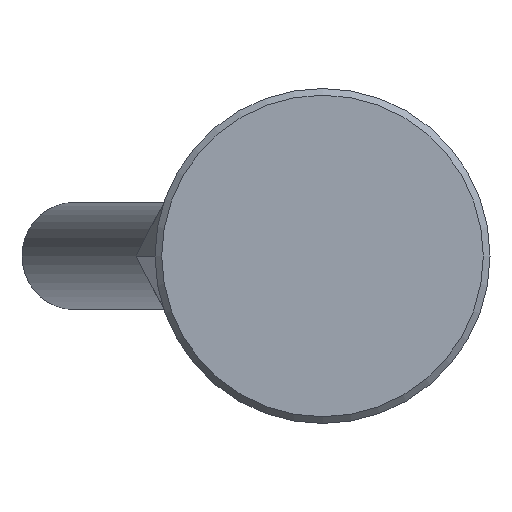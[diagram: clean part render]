
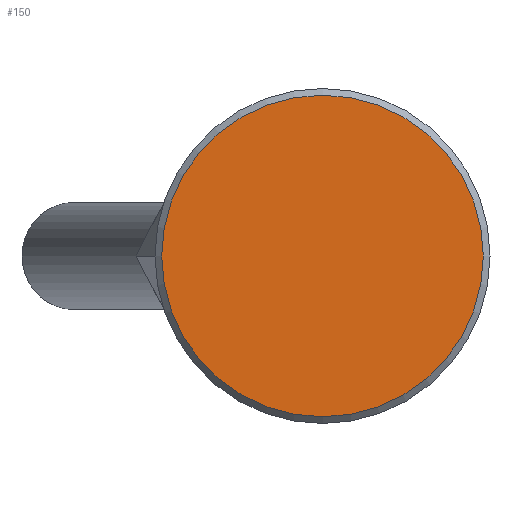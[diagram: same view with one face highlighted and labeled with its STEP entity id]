
A CAD part, front view. The second image highlights one B-rep face of the part: STEP entity #150.
In plain terms, the highlighted planar face has unit normal (0, -1, 0).
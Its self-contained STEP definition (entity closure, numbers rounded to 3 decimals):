
#150 = ADVANCED_FACE( '', ( #307 ), #308, .F. );
#307 = FACE_OUTER_BOUND( '', #503, .T. );
#308 = PLANE( '', #504 );
#503 = EDGE_LOOP( '', ( #743 ) );
#504 = AXIS2_PLACEMENT_3D( '', #744, #745, #746 );
#743 = ORIENTED_EDGE( '', *, *, #1158, .T. );
#744 = CARTESIAN_POINT( '', ( 12., 0., 0. ) );
#745 = DIRECTION( '', ( 0., 1., 0. ) );
#746 = DIRECTION( '', ( 0., 0., 1. ) );
#1158 = EDGE_CURVE( '', #1338, #1338, #1339, .T. );
#1338 = VERTEX_POINT( '', #1627 );
#1339 = CIRCLE( '', #1628, 12. );
#1627 = CARTESIAN_POINT( '', ( 0., 0., -12. ) );
#1628 = AXIS2_PLACEMENT_3D( '', #2071, #2072, #2073 );
#2071 = CARTESIAN_POINT( '', ( 0., 0., 0. ) );
#2072 = DIRECTION( '', ( 0., -1., 0. ) );
#2073 = DIRECTION( '', ( 0., 0., -1. ) );
